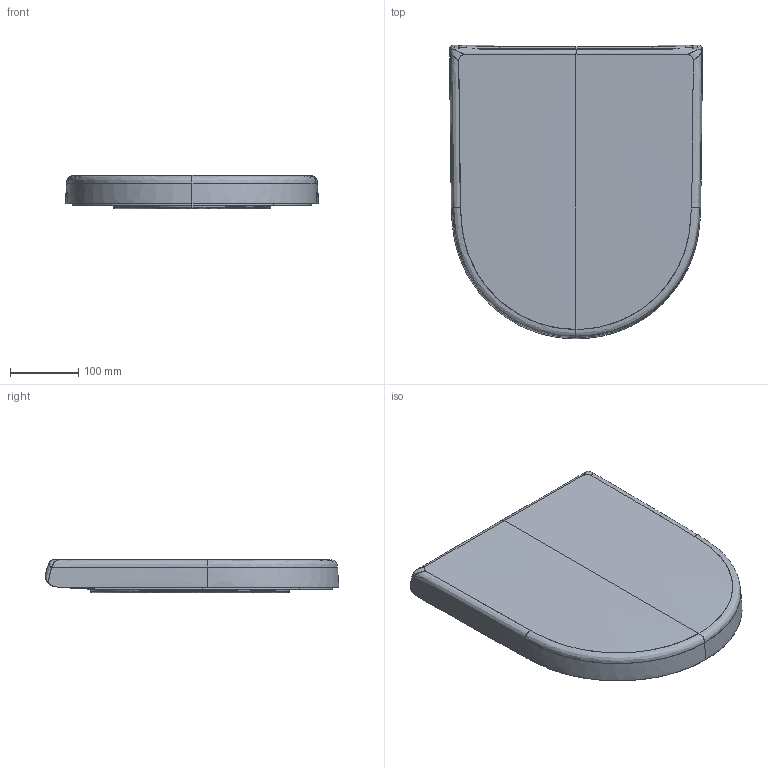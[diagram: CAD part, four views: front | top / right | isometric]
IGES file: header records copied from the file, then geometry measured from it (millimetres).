
Global section: file name: d:\users\matthias.isele\Desktop\0069810000_0069890000\3D\0069810000_0069890000.igs; native system: Rhinoceros ( Sep 13 2016 ); preprocessor: Trout Lake IGES 012 Sep 13 2016; date: 230208.134859; units: millimetre
Bounding box: 370.55 x 430.62 x 49.83 mm (x, y, z)
Surface area: 577760.9 mm2 (no closed solid volume)
Topology: 0 solids, 0 shells, 460 faces, 7010 edges, 7010 vertices
Faces by surface type: bspline 460
